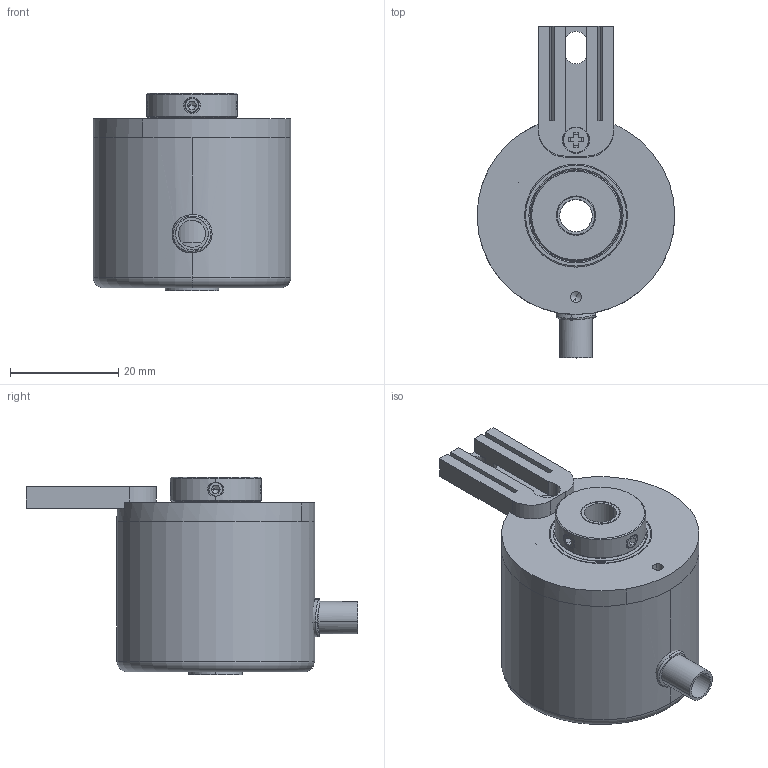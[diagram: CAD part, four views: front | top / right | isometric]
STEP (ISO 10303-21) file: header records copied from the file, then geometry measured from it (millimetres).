
FILE_DESCRIPTION (( 'STEP AP214' ), '1' );
FILE_NAME ('Step 8_3620_22XE_XXXX.STEP', '2013-07-05T16:09:57', ( '' ), ( '' ), 'SwSTEP 2.0', 'SolidWorks 2009', '' );
FILE_SCHEMA (( 'AUTOMOTIVE_DESIGN' ));
Length unit declared in the file: millimetre
Products named in the file (1): Step 8_3620_22XE_XXXX
Bounding box: 36.5 x 61.23 x 36.5 mm (x, y, z)
Volume: 17885.1 mm3; surface area: 18304.4 mm2
Topology: 14 solids, 14 shells, 390 faces, 891 edges, 541 vertices
Faces by surface type: plane 144, cylinder 136, cone 69, torus 33, bspline 8
Entity records: 16467 total; most frequent: CARTESIAN_POINT 3080, DIRECTION 1985, ORIENTED_EDGE 1742, EDGE_CURVE 871, AXIS2_PLACEMENT_3D 780, VERTEX_POINT 541, EDGE_LOOP 452, LINE 425
